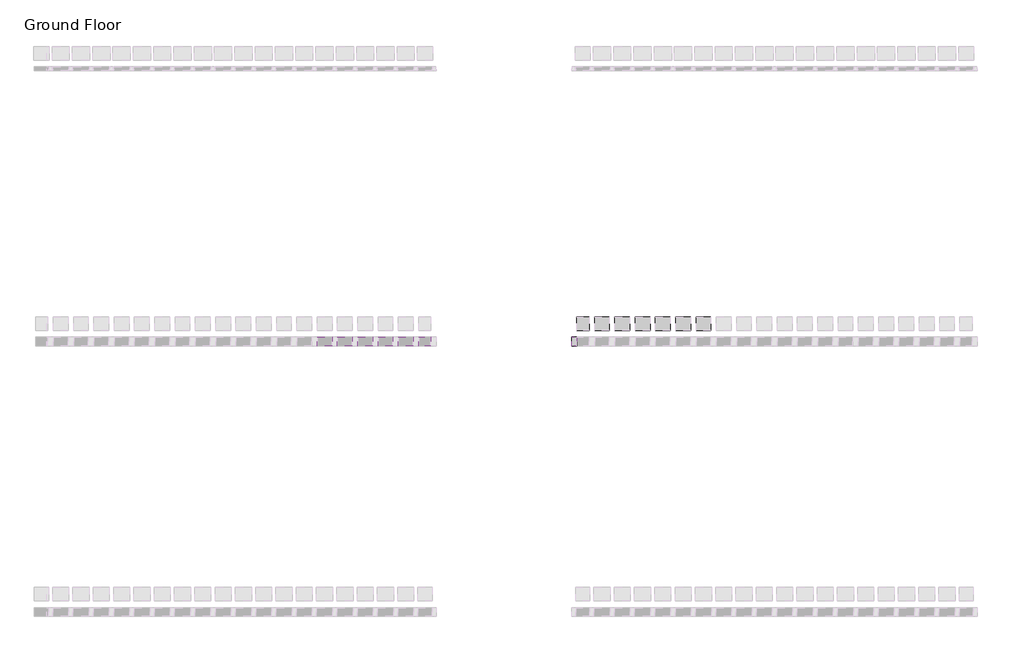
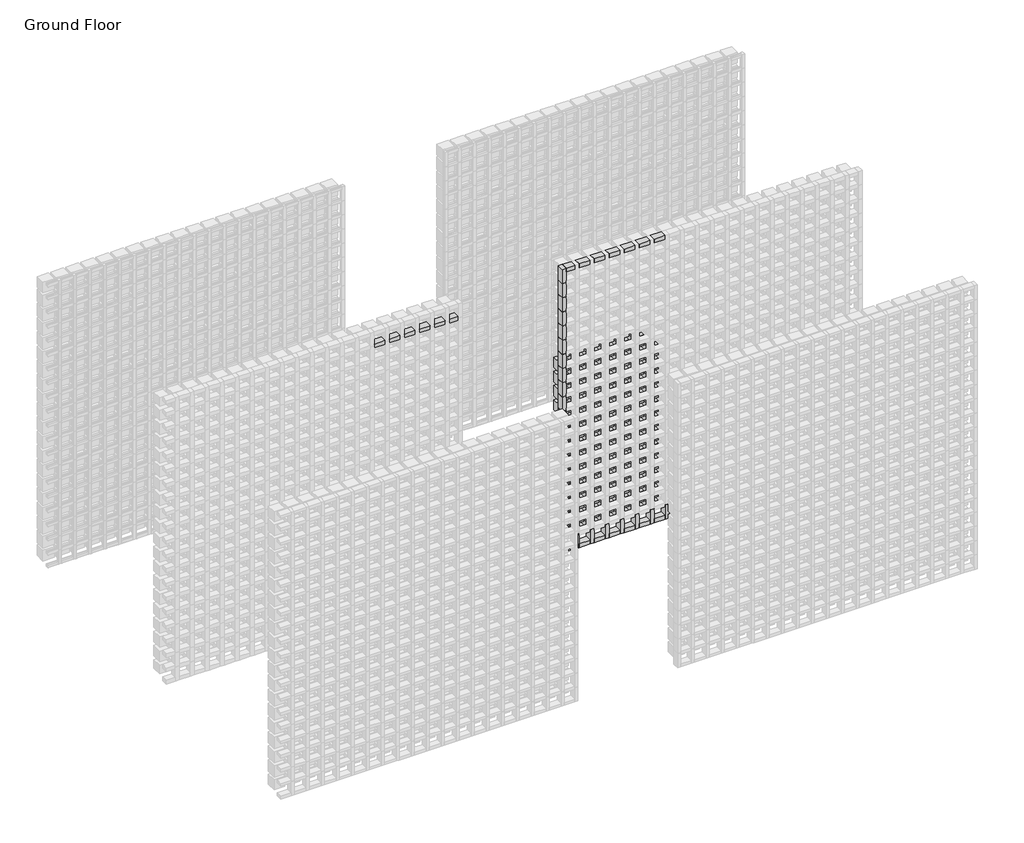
# One storey, part 94 of 350: 90 plates, 48 members.
"""IFC4 building model written with IfcOpenShell, lengths in millimetres."""

from ifc_helpers import new_model, si_unit, origin, place, context, project, spatial, transform, mapped, element, save
from components import rectangular_mullion_0b6a8654, rectangular_mullion_97e353d0, rectangular_mullion_655930e9, rectangular_mullion_78309e0b, rectangular_mullion_581565bb, rectangular_mullion_141bfd94, rectangular_mullion_d5b82d3d, rectangular_mullion_948b1c1d, empty_system_panel_empty_3b500fad, empty_system_panel_empty_e4510abc, empty_system_panel_empty_1faefc6a, empty_system_panel_empty_7f4523f5

model = new_model("IFC4")

# Units and contexts
model_context = context("Model", 3, world=origin())
ifc_project = project(units=[si_unit("LENGTHUNIT", "METRE", prefix="MILLI")], contexts=[model_context])

# Site, building, storey
site = spatial("IfcSite", under=ifc_project)
building = spatial("IfcBuilding", under=site)
storey = spatial("IfcBuildingStorey", under=building, Name="Ground Floor", Elevation=0.0)

# Members
placement = place(None, origin())
rectangular_mullion_shape = rectangular_mullion_0b6a8654(model_context)
element("IfcMember", 1, ObjectType="Rectangular Mullion : Batten_Timber_Modinex_Austratus_Grid_Fascia_40x65_AlaskanYellowCedar", at=placement, inside=storey, context=model_context, shape_type="MappedRepresentation", body=[
    mapped(rectangular_mullion_shape, transform((4876.4361639, 40968.2978302, 2850.0), x_axis=(0.0, 0.0, 1.0), y_axis=(0.0, -1.0, 0.0), z_axis=(1.0, 0.0, 0.0))),
])
rectangular_mullion_2_shape = rectangular_mullion_97e353d0(model_context)
element("IfcMember", 2, ObjectType="Rectangular Mullion : Batten_Timber_Modinex_Austratus_Grid_Fascia_40x65_AlaskanYellowCedar", at=placement, inside=storey, context=model_context, shape_type="MappedRepresentation", body=[
    mapped(rectangular_mullion_2_shape, transform((4146.4361642, 40968.2978302, 2850.0), x_axis=(0.0, 0.0, 1.0), y_axis=(0.0, -1.0, 0.0), z_axis=(1.0, 0.0, 0.0))),
])
element("IfcMember", 3, ObjectType="Rectangular Mullion : Batten_Timber_Modinex_Austratus_Grid_Fascia_40x65_AlaskanYellowCedar", at=placement, inside=storey, context=model_context, shape_type="MappedRepresentation", body=[
    mapped(rectangular_mullion_2_shape, transform((4296.4361642, 40968.2978302, 2850.0), x_axis=(0.0, 0.0, 1.0), y_axis=(0.0, -1.0, 0.0), z_axis=(1.0, 0.0, 0.0))),
])
element("IfcMember", 4, ObjectType="Rectangular Mullion : Batten_Timber_Modinex_Austratus_Grid_Fascia_40x65_AlaskanYellowCedar", at=placement, inside=storey, context=model_context, shape_type="MappedRepresentation", body=[
    mapped(rectangular_mullion_2_shape, transform((4446.4361642, 40968.2978302, 2850.0), x_axis=(0.0, 0.0, 1.0), y_axis=(0.0, -1.0, 0.0), z_axis=(1.0, 0.0, 0.0))),
])
element("IfcMember", 5, ObjectType="Rectangular Mullion : Batten_Timber_Modinex_Austratus_Grid_Fascia_40x65_AlaskanYellowCedar", at=placement, inside=storey, context=model_context, shape_type="MappedRepresentation", body=[
    mapped(rectangular_mullion_2_shape, transform((4596.4361642, 40968.2978302, 2850.0), x_axis=(0.0, 0.0, 1.0), y_axis=(0.0, -1.0, 0.0), z_axis=(1.0, 0.0, 0.0))),
])
element("IfcMember", 6, ObjectType="Rectangular Mullion : Batten_Timber_Modinex_Austratus_Grid_Fascia_40x65_AlaskanYellowCedar", at=placement, inside=storey, context=model_context, shape_type="MappedRepresentation", body=[
    mapped(rectangular_mullion_2_shape, transform((4746.4361642, 40968.2978302, 2850.0), x_axis=(0.0, 0.0, 1.0), y_axis=(0.0, -1.0, 0.0), z_axis=(1.0, 0.0, 0.0))),
])
rectangular_mullion_3_shape = rectangular_mullion_655930e9(model_context)
element("IfcMember", 7, ObjectType="Rectangular Mullion : Batten_Timber_Modinex_Austratus_Grid_Fascia_40x65_Blackbutt", at=placement, inside=storey, context=model_context, shape_type="MappedRepresentation", body=[
    mapped(rectangular_mullion_3_shape, transform((6066.4361642, 40968.2978302, 0.0), x_axis=(1.0, 0.0, 0.0), y_axis=(0.0, -1.0, 0.0), z_axis=(0.0, 0.0, -1.0))),
])
element("IfcMember", 8, ObjectType="Rectangular Mullion : Batten_Timber_Modinex_Austratus_Grid_Fascia_40x65_Blackbutt", at=placement, inside=storey, context=model_context, shape_type="MappedRepresentation", body=[
    mapped(rectangular_mullion_3_shape, transform((6216.4361642, 40968.2978302, 0.0), x_axis=(1.0, 0.0, 0.0), y_axis=(0.0, -1.0, 0.0), z_axis=(0.0, 0.0, -1.0))),
])
element("IfcMember", 9, ObjectType="Rectangular Mullion : Batten_Timber_Modinex_Austratus_Grid_Fascia_40x65_Blackbutt", at=placement, inside=storey, context=model_context, shape_type="MappedRepresentation", body=[
    mapped(rectangular_mullion_3_shape, transform((6366.4361642, 40968.2978302, 0.0), x_axis=(1.0, 0.0, 0.0), y_axis=(0.0, -1.0, 0.0), z_axis=(0.0, 0.0, -1.0))),
])
element("IfcMember", 10, ObjectType="Rectangular Mullion : Batten_Timber_Modinex_Austratus_Grid_Fascia_40x65_Blackbutt", at=placement, inside=storey, context=model_context, shape_type="MappedRepresentation", body=[
    mapped(rectangular_mullion_3_shape, transform((6516.4361642, 40968.2978302, 0.0), x_axis=(1.0, 0.0, 0.0), y_axis=(0.0, -1.0, 0.0), z_axis=(0.0, 0.0, -1.0))),
])
element("IfcMember", 11, ObjectType="Rectangular Mullion : Batten_Timber_Modinex_Austratus_Grid_Fascia_40x65_Blackbutt", at=placement, inside=storey, context=model_context, shape_type="MappedRepresentation", body=[
    mapped(rectangular_mullion_3_shape, transform((6666.4361642, 40968.2978302, 0.0), x_axis=(1.0, 0.0, 0.0), y_axis=(0.0, -1.0, 0.0), z_axis=(0.0, 0.0, -1.0))),
])
element("IfcMember", 12, ObjectType="Rectangular Mullion : Batten_Timber_Modinex_Austratus_Grid_Fascia_40x65_Blackbutt", at=placement, inside=storey, context=model_context, shape_type="MappedRepresentation", body=[
    mapped(rectangular_mullion_3_shape, transform((6816.4361642, 40968.2978302, 0.0), x_axis=(1.0, 0.0, 0.0), y_axis=(0.0, -1.0, 0.0), z_axis=(0.0, 0.0, -1.0))),
])
element("IfcMember", 13, ObjectType="Rectangular Mullion : Batten_Timber_Modinex_Austratus_Grid_Fascia_40x65_Blackbutt", at=placement, inside=storey, context=model_context, shape_type="MappedRepresentation", body=[
    mapped(rectangular_mullion_3_shape, transform((6966.4361642, 40968.2978302, 0.0), x_axis=(1.0, 0.0, 0.0), y_axis=(0.0, -1.0, 0.0), z_axis=(0.0, 0.0, -1.0))),
])
rectangular_mullion_4_shape = rectangular_mullion_78309e0b(model_context)
element("IfcMember", 14, ObjectType="Rectangular Mullion : Batten_Timber_Modinex_Austratus_Grid_Fascia_40x65_Blackbutt", at=placement, inside=storey, context=model_context, shape_type="MappedRepresentation", body=[
    mapped(rectangular_mullion_4_shape, transform((6046.4361642, 40968.2978302, 3000.0), x_axis=(0.0, 0.0, 1.0), y_axis=(0.0, -1.0, 0.0), z_axis=(1.0, 0.0, 0.0))),
])
rectangular_mullion_5_shape = rectangular_mullion_581565bb(model_context)
element("IfcMember", 15, ObjectType="Rectangular Mullion : Batten_Timber_Modinex_Austratus_Grid_Fascia_40x65_Blackbutt", at=placement, inside=storey, context=model_context, shape_type="MappedRepresentation", body=[
    mapped(rectangular_mullion_5_shape, transform((6196.4361642, 40968.2978302, 3000.0), x_axis=(0.0, 0.0, 1.0), y_axis=(0.0, -1.0, 0.0), z_axis=(1.0, 0.0, 0.0))),
])
element("IfcMember", 16, ObjectType="Rectangular Mullion : Batten_Timber_Modinex_Austratus_Grid_Fascia_40x65_Blackbutt", at=placement, inside=storey, context=model_context, shape_type="MappedRepresentation", body=[
    mapped(rectangular_mullion_5_shape, transform((6346.4361642, 40968.2978302, 3000.0), x_axis=(0.0, 0.0, 1.0), y_axis=(0.0, -1.0, 0.0), z_axis=(1.0, 0.0, 0.0))),
])
element("IfcMember", 17, ObjectType="Rectangular Mullion : Batten_Timber_Modinex_Austratus_Grid_Fascia_40x65_Blackbutt", at=placement, inside=storey, context=model_context, shape_type="MappedRepresentation", body=[
    mapped(rectangular_mullion_5_shape, transform((6496.4361642, 40968.2978302, 3000.0), x_axis=(0.0, 0.0, 1.0), y_axis=(0.0, -1.0, 0.0), z_axis=(1.0, 0.0, 0.0))),
])
element("IfcMember", 18, ObjectType="Rectangular Mullion : Batten_Timber_Modinex_Austratus_Grid_Fascia_40x65_Blackbutt", at=placement, inside=storey, context=model_context, shape_type="MappedRepresentation", body=[
    mapped(rectangular_mullion_5_shape, transform((6646.4361642, 40968.2978302, 3000.0), x_axis=(0.0, 0.0, 1.0), y_axis=(0.0, -1.0, 0.0), z_axis=(1.0, 0.0, 0.0))),
])
element("IfcMember", 19, ObjectType="Rectangular Mullion : Batten_Timber_Modinex_Austratus_Grid_Fascia_40x65_Blackbutt", at=placement, inside=storey, context=model_context, shape_type="MappedRepresentation", body=[
    mapped(rectangular_mullion_5_shape, transform((6796.4361642, 40968.2978302, 3000.0), x_axis=(0.0, 0.0, 1.0), y_axis=(0.0, -1.0, 0.0), z_axis=(1.0, 0.0, 0.0))),
])
element("IfcMember", 20, ObjectType="Rectangular Mullion : Batten_Timber_Modinex_Austratus_Grid_Fascia_40x65_Blackbutt", at=placement, inside=storey, context=model_context, shape_type="MappedRepresentation", body=[
    mapped(rectangular_mullion_5_shape, transform((6946.4361642, 40968.2978302, 3000.0), x_axis=(0.0, 0.0, 1.0), y_axis=(0.0, -1.0, 0.0), z_axis=(1.0, 0.0, 0.0))),
])
rectangular_mullion_6_shape = rectangular_mullion_141bfd94(model_context)
element("IfcMember", 21, ObjectType="Rectangular Mullion : Batten_Timber_Modinex_Austratus_Grid_Fascia_40x65_Blackbutt", at=placement, inside=storey, context=model_context, shape_type="MappedRepresentation", body=[
    mapped(rectangular_mullion_6_shape, transform((5956.4361639, 40968.2978302, 0.0), x_axis=(0.0, 0.0, -1.0), y_axis=(0.0, -1.0, 0.0), z_axis=(-1.0, 0.0, 0.0))),
])
rectangular_mullion_7_shape = rectangular_mullion_d5b82d3d(model_context)
element("IfcMember", 22, ObjectType="Rectangular Mullion : Batten_Timber_Modinex_Austratus_Grid_Fascia_40x65_Blackbutt", at=placement, inside=storey, context=model_context, shape_type="MappedRepresentation", body=[
    mapped(rectangular_mullion_7_shape, transform((6086.4361642, 40968.2978302, 0.0), x_axis=(0.0, 0.0, -1.0), y_axis=(0.0, -1.0, 0.0), z_axis=(-1.0, 0.0, 0.0))),
])
element("IfcMember", 23, ObjectType="Rectangular Mullion : Batten_Timber_Modinex_Austratus_Grid_Fascia_40x65_Blackbutt", at=placement, inside=storey, context=model_context, shape_type="MappedRepresentation", body=[
    mapped(rectangular_mullion_7_shape, transform((6236.4361642, 40968.2978302, 0.0), x_axis=(0.0, 0.0, -1.0), y_axis=(0.0, -1.0, 0.0), z_axis=(-1.0, 0.0, 0.0))),
])
element("IfcMember", 24, ObjectType="Rectangular Mullion : Batten_Timber_Modinex_Austratus_Grid_Fascia_40x65_Blackbutt", at=placement, inside=storey, context=model_context, shape_type="MappedRepresentation", body=[
    mapped(rectangular_mullion_7_shape, transform((6386.4361642, 40968.2978302, 0.0), x_axis=(0.0, 0.0, -1.0), y_axis=(0.0, -1.0, 0.0), z_axis=(-1.0, 0.0, 0.0))),
])
element("IfcMember", 25, ObjectType="Rectangular Mullion : Batten_Timber_Modinex_Austratus_Grid_Fascia_40x65_Blackbutt", at=placement, inside=storey, context=model_context, shape_type="MappedRepresentation", body=[
    mapped(rectangular_mullion_7_shape, transform((6536.4361642, 40968.2978302, 0.0), x_axis=(0.0, 0.0, -1.0), y_axis=(0.0, -1.0, 0.0), z_axis=(-1.0, 0.0, 0.0))),
])
element("IfcMember", 26, ObjectType="Rectangular Mullion : Batten_Timber_Modinex_Austratus_Grid_Fascia_40x65_Blackbutt", at=placement, inside=storey, context=model_context, shape_type="MappedRepresentation", body=[
    mapped(rectangular_mullion_7_shape, transform((6686.4361642, 40968.2978302, 0.0), x_axis=(0.0, 0.0, -1.0), y_axis=(0.0, -1.0, 0.0), z_axis=(-1.0, 0.0, 0.0))),
])
element("IfcMember", 27, ObjectType="Rectangular Mullion : Batten_Timber_Modinex_Austratus_Grid_Fascia_40x65_Blackbutt", at=placement, inside=storey, context=model_context, shape_type="MappedRepresentation", body=[
    mapped(rectangular_mullion_7_shape, transform((6836.4361642, 40968.2978302, 0.0), x_axis=(0.0, 0.0, -1.0), y_axis=(0.0, -1.0, 0.0), z_axis=(-1.0, 0.0, 0.0))),
])
element("IfcMember", 28, ObjectType="Rectangular Mullion : Batten_Timber_Modinex_Austratus_Grid_Fascia_40x65_Blackbutt", at=placement, inside=storey, context=model_context, shape_type="MappedRepresentation", body=[
    mapped(rectangular_mullion_7_shape, transform((6986.4361642, 40968.2978302, 0.0), x_axis=(0.0, 0.0, -1.0), y_axis=(0.0, -1.0, 0.0), z_axis=(-1.0, 0.0, 0.0))),
])
rectangular_mullion_8_shape = rectangular_mullion_948b1c1d(model_context)
element("IfcMember", 29, ObjectType="Rectangular Mullion : Batten_Timber_Modinex_Austratus_Grid_Fascia_40x65_Blackbutt", at=placement, inside=storey, context=model_context, shape_type="MappedRepresentation", body=[
    mapped(rectangular_mullion_8_shape, transform((5916.4361639, 40968.2978302, 3000.0), x_axis=(-1.0, 0.0, 0.0), y_axis=(0.0, -1.0, 0.0), z_axis=(0.0, 0.0, 1.0))),
])
element("IfcMember", 30, ObjectType="Rectangular Mullion : Batten_Timber_Modinex_Austratus_Grid_Fascia_40x65_Blackbutt", at=placement, inside=storey, context=model_context, shape_type="MappedRepresentation", body=[
    mapped(rectangular_mullion_8_shape, transform((5916.4361639, 40968.2978302, 150.0), x_axis=(-1.0, 0.0, 0.0), y_axis=(0.0, -1.0, 0.0), z_axis=(0.0, 0.0, 1.0))),
])
element("IfcMember", 31, ObjectType="Rectangular Mullion : Batten_Timber_Modinex_Austratus_Grid_Fascia_40x65_Blackbutt", at=placement, inside=storey, context=model_context, shape_type="MappedRepresentation", body=[
    mapped(rectangular_mullion_8_shape, transform((5916.4361639, 40968.2978302, 300.0), x_axis=(-1.0, 0.0, 0.0), y_axis=(0.0, -1.0, 0.0), z_axis=(0.0, 0.0, 1.0))),
])
element("IfcMember", 32, ObjectType="Rectangular Mullion : Batten_Timber_Modinex_Austratus_Grid_Fascia_40x65_Blackbutt", at=placement, inside=storey, context=model_context, shape_type="MappedRepresentation", body=[
    mapped(rectangular_mullion_8_shape, transform((5916.4361639, 40968.2978302, 450.0), x_axis=(-1.0, 0.0, 0.0), y_axis=(0.0, -1.0, 0.0), z_axis=(0.0, 0.0, 1.0))),
])
element("IfcMember", 33, ObjectType="Rectangular Mullion : Batten_Timber_Modinex_Austratus_Grid_Fascia_40x65_Blackbutt", at=placement, inside=storey, context=model_context, shape_type="MappedRepresentation", body=[
    mapped(rectangular_mullion_8_shape, transform((5916.4361639, 40968.2978302, 600.0), x_axis=(-1.0, 0.0, 0.0), y_axis=(0.0, -1.0, 0.0), z_axis=(0.0, 0.0, 1.0))),
])
element("IfcMember", 34, ObjectType="Rectangular Mullion : Batten_Timber_Modinex_Austratus_Grid_Fascia_40x65_Blackbutt", at=placement, inside=storey, context=model_context, shape_type="MappedRepresentation", body=[
    mapped(rectangular_mullion_8_shape, transform((5916.4361639, 40968.2978302, 750.0), x_axis=(-1.0, 0.0, 0.0), y_axis=(0.0, -1.0, 0.0), z_axis=(0.0, 0.0, 1.0))),
])
element("IfcMember", 35, ObjectType="Rectangular Mullion : Batten_Timber_Modinex_Austratus_Grid_Fascia_40x65_Blackbutt", at=placement, inside=storey, context=model_context, shape_type="MappedRepresentation", body=[
    mapped(rectangular_mullion_8_shape, transform((5916.4361639, 40968.2978302, 900.0), x_axis=(-1.0, 0.0, 0.0), y_axis=(0.0, -1.0, 0.0), z_axis=(0.0, 0.0, 1.0))),
])
element("IfcMember", 36, ObjectType="Rectangular Mullion : Batten_Timber_Modinex_Austratus_Grid_Fascia_40x65_Blackbutt", at=placement, inside=storey, context=model_context, shape_type="MappedRepresentation", body=[
    mapped(rectangular_mullion_8_shape, transform((5916.4361639, 40968.2978302, 1050.0), x_axis=(-1.0, 0.0, 0.0), y_axis=(0.0, -1.0, 0.0), z_axis=(0.0, 0.0, 1.0))),
])
element("IfcMember", 37, ObjectType="Rectangular Mullion : Batten_Timber_Modinex_Austratus_Grid_Fascia_40x65_Blackbutt", at=placement, inside=storey, context=model_context, shape_type="MappedRepresentation", body=[
    mapped(rectangular_mullion_8_shape, transform((5916.4361639, 40968.2978302, 1200.0), x_axis=(-1.0, 0.0, 0.0), y_axis=(0.0, -1.0, 0.0), z_axis=(0.0, 0.0, 1.0))),
])
element("IfcMember", 38, ObjectType="Rectangular Mullion : Batten_Timber_Modinex_Austratus_Grid_Fascia_40x65_Blackbutt", at=placement, inside=storey, context=model_context, shape_type="MappedRepresentation", body=[
    mapped(rectangular_mullion_8_shape, transform((5916.4361639, 40968.2978302, 1350.0), x_axis=(-1.0, 0.0, 0.0), y_axis=(0.0, -1.0, 0.0), z_axis=(0.0, 0.0, 1.0))),
])
element("IfcMember", 39, ObjectType="Rectangular Mullion : Batten_Timber_Modinex_Austratus_Grid_Fascia_40x65_Blackbutt", at=placement, inside=storey, context=model_context, shape_type="MappedRepresentation", body=[
    mapped(rectangular_mullion_8_shape, transform((5916.4361639, 40968.2978302, 1500.0), x_axis=(-1.0, 0.0, 0.0), y_axis=(0.0, -1.0, 0.0), z_axis=(0.0, 0.0, 1.0))),
])
element("IfcMember", 40, ObjectType="Rectangular Mullion : Batten_Timber_Modinex_Austratus_Grid_Fascia_40x65_Blackbutt", at=placement, inside=storey, context=model_context, shape_type="MappedRepresentation", body=[
    mapped(rectangular_mullion_8_shape, transform((5916.4361639, 40968.2978302, 1650.0), x_axis=(-1.0, 0.0, 0.0), y_axis=(0.0, -1.0, 0.0), z_axis=(0.0, 0.0, 1.0))),
])
element("IfcMember", 41, ObjectType="Rectangular Mullion : Batten_Timber_Modinex_Austratus_Grid_Fascia_40x65_Blackbutt", at=placement, inside=storey, context=model_context, shape_type="MappedRepresentation", body=[
    mapped(rectangular_mullion_8_shape, transform((5916.4361639, 40968.2978302, 1800.0), x_axis=(-1.0, 0.0, 0.0), y_axis=(0.0, -1.0, 0.0), z_axis=(0.0, 0.0, 1.0))),
])
element("IfcMember", 42, ObjectType="Rectangular Mullion : Batten_Timber_Modinex_Austratus_Grid_Fascia_40x65_Blackbutt", at=placement, inside=storey, context=model_context, shape_type="MappedRepresentation", body=[
    mapped(rectangular_mullion_8_shape, transform((5916.4361639, 40968.2978302, 1950.0), x_axis=(-1.0, 0.0, 0.0), y_axis=(0.0, -1.0, 0.0), z_axis=(0.0, 0.0, 1.0))),
])
element("IfcMember", 43, ObjectType="Rectangular Mullion : Batten_Timber_Modinex_Austratus_Grid_Fascia_40x65_Blackbutt", at=placement, inside=storey, context=model_context, shape_type="MappedRepresentation", body=[
    mapped(rectangular_mullion_8_shape, transform((5916.4361639, 40968.2978302, 2100.0), x_axis=(-1.0, 0.0, 0.0), y_axis=(0.0, -1.0, 0.0), z_axis=(0.0, 0.0, 1.0))),
])
element("IfcMember", 44, ObjectType="Rectangular Mullion : Batten_Timber_Modinex_Austratus_Grid_Fascia_40x65_Blackbutt", at=placement, inside=storey, context=model_context, shape_type="MappedRepresentation", body=[
    mapped(rectangular_mullion_8_shape, transform((5916.4361639, 40968.2978302, 2250.0), x_axis=(-1.0, 0.0, 0.0), y_axis=(0.0, -1.0, 0.0), z_axis=(0.0, 0.0, 1.0))),
])
element("IfcMember", 45, ObjectType="Rectangular Mullion : Batten_Timber_Modinex_Austratus_Grid_Fascia_40x65_Blackbutt", at=placement, inside=storey, context=model_context, shape_type="MappedRepresentation", body=[
    mapped(rectangular_mullion_8_shape, transform((5916.4361639, 40968.2978302, 2400.0), x_axis=(-1.0, 0.0, 0.0), y_axis=(0.0, -1.0, 0.0), z_axis=(0.0, 0.0, 1.0))),
])
element("IfcMember", 46, ObjectType="Rectangular Mullion : Batten_Timber_Modinex_Austratus_Grid_Fascia_40x65_Blackbutt", at=placement, inside=storey, context=model_context, shape_type="MappedRepresentation", body=[
    mapped(rectangular_mullion_8_shape, transform((5916.4361639, 40968.2978302, 2550.0), x_axis=(-1.0, 0.0, 0.0), y_axis=(0.0, -1.0, 0.0), z_axis=(0.0, 0.0, 1.0))),
])
element("IfcMember", 47, ObjectType="Rectangular Mullion : Batten_Timber_Modinex_Austratus_Grid_Fascia_40x65_Blackbutt", at=placement, inside=storey, context=model_context, shape_type="MappedRepresentation", body=[
    mapped(rectangular_mullion_8_shape, transform((5916.4361639, 40968.2978302, 2700.0), x_axis=(-1.0, 0.0, 0.0), y_axis=(0.0, -1.0, 0.0), z_axis=(0.0, 0.0, 1.0))),
])
element("IfcMember", 48, ObjectType="Rectangular Mullion : Batten_Timber_Modinex_Austratus_Grid_Fascia_40x65_Blackbutt", at=placement, inside=storey, context=model_context, shape_type="MappedRepresentation", body=[
    mapped(rectangular_mullion_8_shape, transform((5916.4361639, 40968.2978302, 2850.0), x_axis=(-1.0, 0.0, 0.0), y_axis=(0.0, -1.0, 0.0), z_axis=(0.0, 0.0, 1.0))),
])

# Plates
empty_system_panel_empty_shape = empty_system_panel_empty_3b500fad(model_context)
element("IfcPlate", 49, ObjectType="Empty System Panel : Empty", at=placement, inside=storey, context=model_context, shape_type="MappedRepresentation", body=[
    mapped(empty_system_panel_empty_shape, transform((6141.4361642, 40968.2978302, 170.0), x_axis=(1.0, 0.0, 0.0), y_axis=(0.0, 1.0, 0.0), z_axis=(0.0, 0.0, 1.0))),
])
element("IfcPlate", 50, ObjectType="Empty System Panel : Empty", at=placement, inside=storey, context=model_context, shape_type="MappedRepresentation", body=[
    mapped(empty_system_panel_empty_shape, transform((6291.4361642, 40968.2978302, 170.0), x_axis=(1.0, 0.0, 0.0), y_axis=(0.0, 1.0, 0.0), z_axis=(0.0, 0.0, 1.0))),
])
element("IfcPlate", 51, ObjectType="Empty System Panel : Empty", at=placement, inside=storey, context=model_context, shape_type="MappedRepresentation", body=[
    mapped(empty_system_panel_empty_shape, transform((6441.4361642, 40968.2978302, 170.0), x_axis=(1.0, 0.0, 0.0), y_axis=(0.0, 1.0, 0.0), z_axis=(0.0, 0.0, 1.0))),
])
element("IfcPlate", 52, ObjectType="Empty System Panel : Empty", at=placement, inside=storey, context=model_context, shape_type="MappedRepresentation", body=[
    mapped(empty_system_panel_empty_shape, transform((6591.4361642, 40968.2978302, 170.0), x_axis=(1.0, 0.0, 0.0), y_axis=(0.0, 1.0, 0.0), z_axis=(0.0, 0.0, 1.0))),
])
element("IfcPlate", 53, ObjectType="Empty System Panel : Empty", at=placement, inside=storey, context=model_context, shape_type="MappedRepresentation", body=[
    mapped(empty_system_panel_empty_shape, transform((6741.4361642, 40968.2978302, 170.0), x_axis=(1.0, 0.0, 0.0), y_axis=(0.0, 1.0, 0.0), z_axis=(0.0, 0.0, 1.0))),
])
element("IfcPlate", 54, ObjectType="Empty System Panel : Empty", at=placement, inside=storey, context=model_context, shape_type="MappedRepresentation", body=[
    mapped(empty_system_panel_empty_shape, transform((6891.4361642, 40968.2978302, 170.0), x_axis=(1.0, 0.0, 0.0), y_axis=(0.0, 1.0, 0.0), z_axis=(0.0, 0.0, 1.0))),
])
element("IfcPlate", 55, ObjectType="Empty System Panel : Empty", at=placement, inside=storey, context=model_context, shape_type="MappedRepresentation", body=[
    mapped(empty_system_panel_empty_shape, transform((6141.4361642, 40968.2978302, 320.0), x_axis=(1.0, 0.0, 0.0), y_axis=(0.0, 1.0, 0.0), z_axis=(0.0, 0.0, 1.0))),
])
element("IfcPlate", 56, ObjectType="Empty System Panel : Empty", at=placement, inside=storey, context=model_context, shape_type="MappedRepresentation", body=[
    mapped(empty_system_panel_empty_shape, transform((6291.4361642, 40968.2978302, 320.0), x_axis=(1.0, 0.0, 0.0), y_axis=(0.0, 1.0, 0.0), z_axis=(0.0, 0.0, 1.0))),
])
element("IfcPlate", 57, ObjectType="Empty System Panel : Empty", at=placement, inside=storey, context=model_context, shape_type="MappedRepresentation", body=[
    mapped(empty_system_panel_empty_shape, transform((6441.4361642, 40968.2978302, 320.0), x_axis=(1.0, 0.0, 0.0), y_axis=(0.0, 1.0, 0.0), z_axis=(0.0, 0.0, 1.0))),
])
element("IfcPlate", 58, ObjectType="Empty System Panel : Empty", at=placement, inside=storey, context=model_context, shape_type="MappedRepresentation", body=[
    mapped(empty_system_panel_empty_shape, transform((6591.4361642, 40968.2978302, 320.0), x_axis=(1.0, 0.0, 0.0), y_axis=(0.0, 1.0, 0.0), z_axis=(0.0, 0.0, 1.0))),
])
element("IfcPlate", 59, ObjectType="Empty System Panel : Empty", at=placement, inside=storey, context=model_context, shape_type="MappedRepresentation", body=[
    mapped(empty_system_panel_empty_shape, transform((6741.4361642, 40968.2978302, 320.0), x_axis=(1.0, 0.0, 0.0), y_axis=(0.0, 1.0, 0.0), z_axis=(0.0, 0.0, 1.0))),
])
element("IfcPlate", 60, ObjectType="Empty System Panel : Empty", at=placement, inside=storey, context=model_context, shape_type="MappedRepresentation", body=[
    mapped(empty_system_panel_empty_shape, transform((6891.4361642, 40968.2978302, 320.0), x_axis=(1.0, 0.0, 0.0), y_axis=(0.0, 1.0, 0.0), z_axis=(0.0, 0.0, 1.0))),
])
element("IfcPlate", 61, ObjectType="Empty System Panel : Empty", at=placement, inside=storey, context=model_context, shape_type="MappedRepresentation", body=[
    mapped(empty_system_panel_empty_shape, transform((6141.4361642, 40968.2978302, 470.0), x_axis=(1.0, 0.0, 0.0), y_axis=(0.0, 1.0, 0.0), z_axis=(0.0, 0.0, 1.0))),
])
element("IfcPlate", 62, ObjectType="Empty System Panel : Empty", at=placement, inside=storey, context=model_context, shape_type="MappedRepresentation", body=[
    mapped(empty_system_panel_empty_shape, transform((6291.4361642, 40968.2978302, 470.0), x_axis=(1.0, 0.0, 0.0), y_axis=(0.0, 1.0, 0.0), z_axis=(0.0, 0.0, 1.0))),
])
element("IfcPlate", 63, ObjectType="Empty System Panel : Empty", at=placement, inside=storey, context=model_context, shape_type="MappedRepresentation", body=[
    mapped(empty_system_panel_empty_shape, transform((6441.4361642, 40968.2978302, 470.0), x_axis=(1.0, 0.0, 0.0), y_axis=(0.0, 1.0, 0.0), z_axis=(0.0, 0.0, 1.0))),
])
element("IfcPlate", 64, ObjectType="Empty System Panel : Empty", at=placement, inside=storey, context=model_context, shape_type="MappedRepresentation", body=[
    mapped(empty_system_panel_empty_shape, transform((6591.4361642, 40968.2978302, 470.0), x_axis=(1.0, 0.0, 0.0), y_axis=(0.0, 1.0, 0.0), z_axis=(0.0, 0.0, 1.0))),
])
element("IfcPlate", 65, ObjectType="Empty System Panel : Empty", at=placement, inside=storey, context=model_context, shape_type="MappedRepresentation", body=[
    mapped(empty_system_panel_empty_shape, transform((6741.4361642, 40968.2978302, 470.0), x_axis=(1.0, 0.0, 0.0), y_axis=(0.0, 1.0, 0.0), z_axis=(0.0, 0.0, 1.0))),
])
element("IfcPlate", 66, ObjectType="Empty System Panel : Empty", at=placement, inside=storey, context=model_context, shape_type="MappedRepresentation", body=[
    mapped(empty_system_panel_empty_shape, transform((6891.4361642, 40968.2978302, 470.0), x_axis=(1.0, 0.0, 0.0), y_axis=(0.0, 1.0, 0.0), z_axis=(0.0, 0.0, 1.0))),
])
element("IfcPlate", 67, ObjectType="Empty System Panel : Empty", at=placement, inside=storey, context=model_context, shape_type="MappedRepresentation", body=[
    mapped(empty_system_panel_empty_shape, transform((6141.4361642, 40968.2978302, 620.0), x_axis=(1.0, 0.0, 0.0), y_axis=(0.0, 1.0, 0.0), z_axis=(0.0, 0.0, 1.0))),
])
element("IfcPlate", 68, ObjectType="Empty System Panel : Empty", at=placement, inside=storey, context=model_context, shape_type="MappedRepresentation", body=[
    mapped(empty_system_panel_empty_shape, transform((6291.4361642, 40968.2978302, 620.0), x_axis=(1.0, 0.0, 0.0), y_axis=(0.0, 1.0, 0.0), z_axis=(0.0, 0.0, 1.0))),
])
element("IfcPlate", 69, ObjectType="Empty System Panel : Empty", at=placement, inside=storey, context=model_context, shape_type="MappedRepresentation", body=[
    mapped(empty_system_panel_empty_shape, transform((6441.4361642, 40968.2978302, 620.0), x_axis=(1.0, 0.0, 0.0), y_axis=(0.0, 1.0, 0.0), z_axis=(0.0, 0.0, 1.0))),
])
element("IfcPlate", 70, ObjectType="Empty System Panel : Empty", at=placement, inside=storey, context=model_context, shape_type="MappedRepresentation", body=[
    mapped(empty_system_panel_empty_shape, transform((6591.4361642, 40968.2978302, 620.0), x_axis=(1.0, 0.0, 0.0), y_axis=(0.0, 1.0, 0.0), z_axis=(0.0, 0.0, 1.0))),
])
element("IfcPlate", 71, ObjectType="Empty System Panel : Empty", at=placement, inside=storey, context=model_context, shape_type="MappedRepresentation", body=[
    mapped(empty_system_panel_empty_shape, transform((6741.4361642, 40968.2978302, 620.0), x_axis=(1.0, 0.0, 0.0), y_axis=(0.0, 1.0, 0.0), z_axis=(0.0, 0.0, 1.0))),
])
element("IfcPlate", 72, ObjectType="Empty System Panel : Empty", at=placement, inside=storey, context=model_context, shape_type="MappedRepresentation", body=[
    mapped(empty_system_panel_empty_shape, transform((6891.4361642, 40968.2978302, 620.0), x_axis=(1.0, 0.0, 0.0), y_axis=(0.0, 1.0, 0.0), z_axis=(0.0, 0.0, 1.0))),
])
element("IfcPlate", 73, ObjectType="Empty System Panel : Empty", at=placement, inside=storey, context=model_context, shape_type="MappedRepresentation", body=[
    mapped(empty_system_panel_empty_shape, transform((6141.4361642, 40968.2978302, 770.0), x_axis=(1.0, 0.0, 0.0), y_axis=(0.0, 1.0, 0.0), z_axis=(0.0, 0.0, 1.0))),
])
element("IfcPlate", 74, ObjectType="Empty System Panel : Empty", at=placement, inside=storey, context=model_context, shape_type="MappedRepresentation", body=[
    mapped(empty_system_panel_empty_shape, transform((6291.4361642, 40968.2978302, 770.0), x_axis=(1.0, 0.0, 0.0), y_axis=(0.0, 1.0, 0.0), z_axis=(0.0, 0.0, 1.0))),
])
element("IfcPlate", 75, ObjectType="Empty System Panel : Empty", at=placement, inside=storey, context=model_context, shape_type="MappedRepresentation", body=[
    mapped(empty_system_panel_empty_shape, transform((6441.4361642, 40968.2978302, 770.0), x_axis=(1.0, 0.0, 0.0), y_axis=(0.0, 1.0, 0.0), z_axis=(0.0, 0.0, 1.0))),
])
element("IfcPlate", 76, ObjectType="Empty System Panel : Empty", at=placement, inside=storey, context=model_context, shape_type="MappedRepresentation", body=[
    mapped(empty_system_panel_empty_shape, transform((6591.4361642, 40968.2978302, 770.0), x_axis=(1.0, 0.0, 0.0), y_axis=(0.0, 1.0, 0.0), z_axis=(0.0, 0.0, 1.0))),
])
element("IfcPlate", 77, ObjectType="Empty System Panel : Empty", at=placement, inside=storey, context=model_context, shape_type="MappedRepresentation", body=[
    mapped(empty_system_panel_empty_shape, transform((6741.4361642, 40968.2978302, 770.0), x_axis=(1.0, 0.0, 0.0), y_axis=(0.0, 1.0, 0.0), z_axis=(0.0, 0.0, 1.0))),
])
element("IfcPlate", 78, ObjectType="Empty System Panel : Empty", at=placement, inside=storey, context=model_context, shape_type="MappedRepresentation", body=[
    mapped(empty_system_panel_empty_shape, transform((6891.4361642, 40968.2978302, 770.0), x_axis=(1.0, 0.0, 0.0), y_axis=(0.0, 1.0, 0.0), z_axis=(0.0, 0.0, 1.0))),
])
element("IfcPlate", 79, ObjectType="Empty System Panel : Empty", at=placement, inside=storey, context=model_context, shape_type="MappedRepresentation", body=[
    mapped(empty_system_panel_empty_shape, transform((6141.4361642, 40968.2978302, 920.0), x_axis=(1.0, 0.0, 0.0), y_axis=(0.0, 1.0, 0.0), z_axis=(0.0, 0.0, 1.0))),
])
element("IfcPlate", 80, ObjectType="Empty System Panel : Empty", at=placement, inside=storey, context=model_context, shape_type="MappedRepresentation", body=[
    mapped(empty_system_panel_empty_shape, transform((6291.4361642, 40968.2978302, 920.0), x_axis=(1.0, 0.0, 0.0), y_axis=(0.0, 1.0, 0.0), z_axis=(0.0, 0.0, 1.0))),
])
element("IfcPlate", 81, ObjectType="Empty System Panel : Empty", at=placement, inside=storey, context=model_context, shape_type="MappedRepresentation", body=[
    mapped(empty_system_panel_empty_shape, transform((6441.4361642, 40968.2978302, 920.0), x_axis=(1.0, 0.0, 0.0), y_axis=(0.0, 1.0, 0.0), z_axis=(0.0, 0.0, 1.0))),
])
element("IfcPlate", 82, ObjectType="Empty System Panel : Empty", at=placement, inside=storey, context=model_context, shape_type="MappedRepresentation", body=[
    mapped(empty_system_panel_empty_shape, transform((6591.4361642, 40968.2978302, 920.0), x_axis=(1.0, 0.0, 0.0), y_axis=(0.0, 1.0, 0.0), z_axis=(0.0, 0.0, 1.0))),
])
element("IfcPlate", 83, ObjectType="Empty System Panel : Empty", at=placement, inside=storey, context=model_context, shape_type="MappedRepresentation", body=[
    mapped(empty_system_panel_empty_shape, transform((6741.4361642, 40968.2978302, 920.0), x_axis=(1.0, 0.0, 0.0), y_axis=(0.0, 1.0, 0.0), z_axis=(0.0, 0.0, 1.0))),
])
element("IfcPlate", 84, ObjectType="Empty System Panel : Empty", at=placement, inside=storey, context=model_context, shape_type="MappedRepresentation", body=[
    mapped(empty_system_panel_empty_shape, transform((6891.4361642, 40968.2978302, 920.0), x_axis=(1.0, 0.0, 0.0), y_axis=(0.0, 1.0, 0.0), z_axis=(0.0, 0.0, 1.0))),
])
element("IfcPlate", 85, ObjectType="Empty System Panel : Empty", at=placement, inside=storey, context=model_context, shape_type="MappedRepresentation", body=[
    mapped(empty_system_panel_empty_shape, transform((6141.4361642, 40968.2978302, 1070.0), x_axis=(1.0, 0.0, 0.0), y_axis=(0.0, 1.0, 0.0), z_axis=(0.0, 0.0, 1.0))),
])
element("IfcPlate", 86, ObjectType="Empty System Panel : Empty", at=placement, inside=storey, context=model_context, shape_type="MappedRepresentation", body=[
    mapped(empty_system_panel_empty_shape, transform((6291.4361642, 40968.2978302, 1070.0), x_axis=(1.0, 0.0, 0.0), y_axis=(0.0, 1.0, 0.0), z_axis=(0.0, 0.0, 1.0))),
])
element("IfcPlate", 87, ObjectType="Empty System Panel : Empty", at=placement, inside=storey, context=model_context, shape_type="MappedRepresentation", body=[
    mapped(empty_system_panel_empty_shape, transform((6441.4361642, 40968.2978302, 1070.0), x_axis=(1.0, 0.0, 0.0), y_axis=(0.0, 1.0, 0.0), z_axis=(0.0, 0.0, 1.0))),
])
element("IfcPlate", 88, ObjectType="Empty System Panel : Empty", at=placement, inside=storey, context=model_context, shape_type="MappedRepresentation", body=[
    mapped(empty_system_panel_empty_shape, transform((6591.4361642, 40968.2978302, 1070.0), x_axis=(1.0, 0.0, 0.0), y_axis=(0.0, 1.0, 0.0), z_axis=(0.0, 0.0, 1.0))),
])
element("IfcPlate", 89, ObjectType="Empty System Panel : Empty", at=placement, inside=storey, context=model_context, shape_type="MappedRepresentation", body=[
    mapped(empty_system_panel_empty_shape, transform((6741.4361642, 40968.2978302, 1070.0), x_axis=(1.0, 0.0, 0.0), y_axis=(0.0, 1.0, 0.0), z_axis=(0.0, 0.0, 1.0))),
])
element("IfcPlate", 90, ObjectType="Empty System Panel : Empty", at=placement, inside=storey, context=model_context, shape_type="MappedRepresentation", body=[
    mapped(empty_system_panel_empty_shape, transform((6891.4361642, 40968.2978302, 1070.0), x_axis=(1.0, 0.0, 0.0), y_axis=(0.0, 1.0, 0.0), z_axis=(0.0, 0.0, 1.0))),
])
element("IfcPlate", 91, ObjectType="Empty System Panel : Empty", at=placement, inside=storey, context=model_context, shape_type="MappedRepresentation", body=[
    mapped(empty_system_panel_empty_shape, transform((6141.4361642, 40968.2978302, 1220.0), x_axis=(1.0, 0.0, 0.0), y_axis=(0.0, 1.0, 0.0), z_axis=(0.0, 0.0, 1.0))),
])
element("IfcPlate", 92, ObjectType="Empty System Panel : Empty", at=placement, inside=storey, context=model_context, shape_type="MappedRepresentation", body=[
    mapped(empty_system_panel_empty_shape, transform((6291.4361642, 40968.2978302, 1220.0), x_axis=(1.0, 0.0, 0.0), y_axis=(0.0, 1.0, 0.0), z_axis=(0.0, 0.0, 1.0))),
])
element("IfcPlate", 93, ObjectType="Empty System Panel : Empty", at=placement, inside=storey, context=model_context, shape_type="MappedRepresentation", body=[
    mapped(empty_system_panel_empty_shape, transform((6441.4361642, 40968.2978302, 1220.0), x_axis=(1.0, 0.0, 0.0), y_axis=(0.0, 1.0, 0.0), z_axis=(0.0, 0.0, 1.0))),
])
element("IfcPlate", 94, ObjectType="Empty System Panel : Empty", at=placement, inside=storey, context=model_context, shape_type="MappedRepresentation", body=[
    mapped(empty_system_panel_empty_shape, transform((6591.4361642, 40968.2978302, 1220.0), x_axis=(1.0, 0.0, 0.0), y_axis=(0.0, 1.0, 0.0), z_axis=(0.0, 0.0, 1.0))),
])
element("IfcPlate", 95, ObjectType="Empty System Panel : Empty", at=placement, inside=storey, context=model_context, shape_type="MappedRepresentation", body=[
    mapped(empty_system_panel_empty_shape, transform((6741.4361642, 40968.2978302, 1220.0), x_axis=(1.0, 0.0, 0.0), y_axis=(0.0, 1.0, 0.0), z_axis=(0.0, 0.0, 1.0))),
])
element("IfcPlate", 96, ObjectType="Empty System Panel : Empty", at=placement, inside=storey, context=model_context, shape_type="MappedRepresentation", body=[
    mapped(empty_system_panel_empty_shape, transform((6891.4361642, 40968.2978302, 1220.0), x_axis=(1.0, 0.0, 0.0), y_axis=(0.0, 1.0, 0.0), z_axis=(0.0, 0.0, 1.0))),
])
element("IfcPlate", 97, ObjectType="Empty System Panel : Empty", at=placement, inside=storey, context=model_context, shape_type="MappedRepresentation", body=[
    mapped(empty_system_panel_empty_shape, transform((6141.4361642, 40968.2978302, 1370.0), x_axis=(1.0, 0.0, 0.0), y_axis=(0.0, 1.0, 0.0), z_axis=(0.0, 0.0, 1.0))),
])
element("IfcPlate", 98, ObjectType="Empty System Panel : Empty", at=placement, inside=storey, context=model_context, shape_type="MappedRepresentation", body=[
    mapped(empty_system_panel_empty_shape, transform((6291.4361642, 40968.2978302, 1370.0), x_axis=(1.0, 0.0, 0.0), y_axis=(0.0, 1.0, 0.0), z_axis=(0.0, 0.0, 1.0))),
])
element("IfcPlate", 99, ObjectType="Empty System Panel : Empty", at=placement, inside=storey, context=model_context, shape_type="MappedRepresentation", body=[
    mapped(empty_system_panel_empty_shape, transform((6441.4361642, 40968.2978302, 1370.0), x_axis=(1.0, 0.0, 0.0), y_axis=(0.0, 1.0, 0.0), z_axis=(0.0, 0.0, 1.0))),
])
element("IfcPlate", 100, ObjectType="Empty System Panel : Empty", at=placement, inside=storey, context=model_context, shape_type="MappedRepresentation", body=[
    mapped(empty_system_panel_empty_shape, transform((6591.4361642, 40968.2978302, 1370.0), x_axis=(1.0, 0.0, 0.0), y_axis=(0.0, 1.0, 0.0), z_axis=(0.0, 0.0, 1.0))),
])
element("IfcPlate", 101, ObjectType="Empty System Panel : Empty", at=placement, inside=storey, context=model_context, shape_type="MappedRepresentation", body=[
    mapped(empty_system_panel_empty_shape, transform((6741.4361642, 40968.2978302, 1370.0), x_axis=(1.0, 0.0, 0.0), y_axis=(0.0, 1.0, 0.0), z_axis=(0.0, 0.0, 1.0))),
])
element("IfcPlate", 102, ObjectType="Empty System Panel : Empty", at=placement, inside=storey, context=model_context, shape_type="MappedRepresentation", body=[
    mapped(empty_system_panel_empty_shape, transform((6891.4361642, 40968.2978302, 1370.0), x_axis=(1.0, 0.0, 0.0), y_axis=(0.0, 1.0, 0.0), z_axis=(0.0, 0.0, 1.0))),
])
element("IfcPlate", 103, ObjectType="Empty System Panel : Empty", at=placement, inside=storey, context=model_context, shape_type="MappedRepresentation", body=[
    mapped(empty_system_panel_empty_shape, transform((6141.4361642, 40968.2978302, 1520.0), x_axis=(1.0, 0.0, 0.0), y_axis=(0.0, 1.0, 0.0), z_axis=(0.0, 0.0, 1.0))),
])
element("IfcPlate", 104, ObjectType="Empty System Panel : Empty", at=placement, inside=storey, context=model_context, shape_type="MappedRepresentation", body=[
    mapped(empty_system_panel_empty_shape, transform((6291.4361642, 40968.2978302, 1520.0), x_axis=(1.0, 0.0, 0.0), y_axis=(0.0, 1.0, 0.0), z_axis=(0.0, 0.0, 1.0))),
])
element("IfcPlate", 105, ObjectType="Empty System Panel : Empty", at=placement, inside=storey, context=model_context, shape_type="MappedRepresentation", body=[
    mapped(empty_system_panel_empty_shape, transform((6441.4361642, 40968.2978302, 1520.0), x_axis=(1.0, 0.0, 0.0), y_axis=(0.0, 1.0, 0.0), z_axis=(0.0, 0.0, 1.0))),
])
element("IfcPlate", 106, ObjectType="Empty System Panel : Empty", at=placement, inside=storey, context=model_context, shape_type="MappedRepresentation", body=[
    mapped(empty_system_panel_empty_shape, transform((6591.4361642, 40968.2978302, 1520.0), x_axis=(1.0, 0.0, 0.0), y_axis=(0.0, 1.0, 0.0), z_axis=(0.0, 0.0, 1.0))),
])
element("IfcPlate", 107, ObjectType="Empty System Panel : Empty", at=placement, inside=storey, context=model_context, shape_type="MappedRepresentation", body=[
    mapped(empty_system_panel_empty_shape, transform((6741.4361642, 40968.2978302, 1520.0), x_axis=(1.0, 0.0, 0.0), y_axis=(0.0, 1.0, 0.0), z_axis=(0.0, 0.0, 1.0))),
])
element("IfcPlate", 108, ObjectType="Empty System Panel : Empty", at=placement, inside=storey, context=model_context, shape_type="MappedRepresentation", body=[
    mapped(empty_system_panel_empty_shape, transform((6891.4361642, 40968.2978302, 1520.0), x_axis=(1.0, 0.0, 0.0), y_axis=(0.0, 1.0, 0.0), z_axis=(0.0, 0.0, 1.0))),
])
element("IfcPlate", 109, ObjectType="Empty System Panel : Empty", at=placement, inside=storey, context=model_context, shape_type="MappedRepresentation", body=[
    mapped(empty_system_panel_empty_shape, transform((6141.4361642, 40968.2978302, 1670.0), x_axis=(1.0, 0.0, 0.0), y_axis=(0.0, 1.0, 0.0), z_axis=(0.0, 0.0, 1.0))),
])
element("IfcPlate", 110, ObjectType="Empty System Panel : Empty", at=placement, inside=storey, context=model_context, shape_type="MappedRepresentation", body=[
    mapped(empty_system_panel_empty_shape, transform((6291.4361642, 40968.2978302, 1670.0), x_axis=(1.0, 0.0, 0.0), y_axis=(0.0, 1.0, 0.0), z_axis=(0.0, 0.0, 1.0))),
])
element("IfcPlate", 111, ObjectType="Empty System Panel : Empty", at=placement, inside=storey, context=model_context, shape_type="MappedRepresentation", body=[
    mapped(empty_system_panel_empty_shape, transform((6441.4361642, 40968.2978302, 1670.0), x_axis=(1.0, 0.0, 0.0), y_axis=(0.0, 1.0, 0.0), z_axis=(0.0, 0.0, 1.0))),
])
element("IfcPlate", 112, ObjectType="Empty System Panel : Empty", at=placement, inside=storey, context=model_context, shape_type="MappedRepresentation", body=[
    mapped(empty_system_panel_empty_shape, transform((6591.4361642, 40968.2978302, 1670.0), x_axis=(1.0, 0.0, 0.0), y_axis=(0.0, 1.0, 0.0), z_axis=(0.0, 0.0, 1.0))),
])
element("IfcPlate", 113, ObjectType="Empty System Panel : Empty", at=placement, inside=storey, context=model_context, shape_type="MappedRepresentation", body=[
    mapped(empty_system_panel_empty_shape, transform((6741.4361642, 40968.2978302, 1670.0), x_axis=(1.0, 0.0, 0.0), y_axis=(0.0, 1.0, 0.0), z_axis=(0.0, 0.0, 1.0))),
])
element("IfcPlate", 114, ObjectType="Empty System Panel : Empty", at=placement, inside=storey, context=model_context, shape_type="MappedRepresentation", body=[
    mapped(empty_system_panel_empty_shape, transform((6891.4361642, 40968.2978302, 1670.0), x_axis=(1.0, 0.0, 0.0), y_axis=(0.0, 1.0, 0.0), z_axis=(0.0, 0.0, 1.0))),
])
element("IfcPlate", 115, ObjectType="Empty System Panel : Empty", at=placement, inside=storey, context=model_context, shape_type="MappedRepresentation", body=[
    mapped(empty_system_panel_empty_shape, transform((6141.4361642, 40968.2978302, 1820.0), x_axis=(1.0, 0.0, 0.0), y_axis=(0.0, 1.0, 0.0), z_axis=(0.0, 0.0, 1.0))),
])
element("IfcPlate", 116, ObjectType="Empty System Panel : Empty", at=placement, inside=storey, context=model_context, shape_type="MappedRepresentation", body=[
    mapped(empty_system_panel_empty_shape, transform((6291.4361642, 40968.2978302, 1820.0), x_axis=(1.0, 0.0, 0.0), y_axis=(0.0, 1.0, 0.0), z_axis=(0.0, 0.0, 1.0))),
])
element("IfcPlate", 117, ObjectType="Empty System Panel : Empty", at=placement, inside=storey, context=model_context, shape_type="MappedRepresentation", body=[
    mapped(empty_system_panel_empty_shape, transform((6441.4361642, 40968.2978302, 1820.0), x_axis=(1.0, 0.0, 0.0), y_axis=(0.0, 1.0, 0.0), z_axis=(0.0, 0.0, 1.0))),
])
element("IfcPlate", 118, ObjectType="Empty System Panel : Empty", at=placement, inside=storey, context=model_context, shape_type="MappedRepresentation", body=[
    mapped(empty_system_panel_empty_shape, transform((6591.4361642, 40968.2978302, 1820.0), x_axis=(1.0, 0.0, 0.0), y_axis=(0.0, 1.0, 0.0), z_axis=(0.0, 0.0, 1.0))),
])
element("IfcPlate", 119, ObjectType="Empty System Panel : Empty", at=placement, inside=storey, context=model_context, shape_type="MappedRepresentation", body=[
    mapped(empty_system_panel_empty_shape, transform((6741.4361642, 40968.2978302, 1820.0), x_axis=(1.0, 0.0, 0.0), y_axis=(0.0, 1.0, 0.0), z_axis=(0.0, 0.0, 1.0))),
])
empty_system_panel_empty_2_shape = empty_system_panel_empty_e4510abc(model_context)
element("IfcPlate", 120, ObjectType="Empty System Panel : Empty", at=placement, inside=storey, context=model_context, shape_type="MappedRepresentation", body=[
    mapped(empty_system_panel_empty_2_shape, transform((6001.4361641, 40968.2978302, 40.0), x_axis=(1.0, 0.0, 0.0), y_axis=(0.0, 1.0, 0.0), z_axis=(0.0, 0.0, 1.0))),
])
empty_system_panel_empty_3_shape = empty_system_panel_empty_1faefc6a(model_context)
element("IfcPlate", 121, ObjectType="Empty System Panel : Empty", at=placement, inside=storey, context=model_context, shape_type="MappedRepresentation", body=[
    mapped(empty_system_panel_empty_3_shape, transform((6141.4361642, 40968.2978302, 40.0), x_axis=(1.0, 0.0, 0.0), y_axis=(0.0, 1.0, 0.0), z_axis=(0.0, 0.0, 1.0))),
])
element("IfcPlate", 122, ObjectType="Empty System Panel : Empty", at=placement, inside=storey, context=model_context, shape_type="MappedRepresentation", body=[
    mapped(empty_system_panel_empty_3_shape, transform((6291.4361642, 40968.2978302, 40.0), x_axis=(1.0, 0.0, 0.0), y_axis=(0.0, 1.0, 0.0), z_axis=(0.0, 0.0, 1.0))),
])
element("IfcPlate", 123, ObjectType="Empty System Panel : Empty", at=placement, inside=storey, context=model_context, shape_type="MappedRepresentation", body=[
    mapped(empty_system_panel_empty_3_shape, transform((6441.4361642, 40968.2978302, 40.0), x_axis=(1.0, 0.0, 0.0), y_axis=(0.0, 1.0, 0.0), z_axis=(0.0, 0.0, 1.0))),
])
element("IfcPlate", 124, ObjectType="Empty System Panel : Empty", at=placement, inside=storey, context=model_context, shape_type="MappedRepresentation", body=[
    mapped(empty_system_panel_empty_3_shape, transform((6591.4361642, 40968.2978302, 40.0), x_axis=(1.0, 0.0, 0.0), y_axis=(0.0, 1.0, 0.0), z_axis=(0.0, 0.0, 1.0))),
])
element("IfcPlate", 125, ObjectType="Empty System Panel : Empty", at=placement, inside=storey, context=model_context, shape_type="MappedRepresentation", body=[
    mapped(empty_system_panel_empty_3_shape, transform((6741.4361642, 40968.2978302, 40.0), x_axis=(1.0, 0.0, 0.0), y_axis=(0.0, 1.0, 0.0), z_axis=(0.0, 0.0, 1.0))),
])
element("IfcPlate", 126, ObjectType="Empty System Panel : Empty", at=placement, inside=storey, context=model_context, shape_type="MappedRepresentation", body=[
    mapped(empty_system_panel_empty_3_shape, transform((6891.4361642, 40968.2978302, 40.0), x_axis=(1.0, 0.0, 0.0), y_axis=(0.0, 1.0, 0.0), z_axis=(0.0, 0.0, 1.0))),
])
empty_system_panel_empty_4_shape = empty_system_panel_empty_7f4523f5(model_context)
element("IfcPlate", 127, ObjectType="Empty System Panel : Empty", at=placement, inside=storey, context=model_context, shape_type="MappedRepresentation", body=[
    mapped(empty_system_panel_empty_4_shape, transform((6001.4361641, 40968.2978302, 170.0), x_axis=(1.0, 0.0, 0.0), y_axis=(0.0, 1.0, 0.0), z_axis=(0.0, 0.0, 1.0))),
])
element("IfcPlate", 128, ObjectType="Empty System Panel : Empty", at=placement, inside=storey, context=model_context, shape_type="MappedRepresentation", body=[
    mapped(empty_system_panel_empty_4_shape, transform((6001.4361641, 40968.2978302, 320.0), x_axis=(1.0, 0.0, 0.0), y_axis=(0.0, 1.0, 0.0), z_axis=(0.0, 0.0, 1.0))),
])
element("IfcPlate", 129, ObjectType="Empty System Panel : Empty", at=placement, inside=storey, context=model_context, shape_type="MappedRepresentation", body=[
    mapped(empty_system_panel_empty_4_shape, transform((6001.4361641, 40968.2978302, 470.0), x_axis=(1.0, 0.0, 0.0), y_axis=(0.0, 1.0, 0.0), z_axis=(0.0, 0.0, 1.0))),
])
element("IfcPlate", 130, ObjectType="Empty System Panel : Empty", at=placement, inside=storey, context=model_context, shape_type="MappedRepresentation", body=[
    mapped(empty_system_panel_empty_4_shape, transform((6001.4361641, 40968.2978302, 620.0), x_axis=(1.0, 0.0, 0.0), y_axis=(0.0, 1.0, 0.0), z_axis=(0.0, 0.0, 1.0))),
])
element("IfcPlate", 131, ObjectType="Empty System Panel : Empty", at=placement, inside=storey, context=model_context, shape_type="MappedRepresentation", body=[
    mapped(empty_system_panel_empty_4_shape, transform((6001.4361641, 40968.2978302, 770.0), x_axis=(1.0, 0.0, 0.0), y_axis=(0.0, 1.0, 0.0), z_axis=(0.0, 0.0, 1.0))),
])
element("IfcPlate", 132, ObjectType="Empty System Panel : Empty", at=placement, inside=storey, context=model_context, shape_type="MappedRepresentation", body=[
    mapped(empty_system_panel_empty_4_shape, transform((6001.4361641, 40968.2978302, 920.0), x_axis=(1.0, 0.0, 0.0), y_axis=(0.0, 1.0, 0.0), z_axis=(0.0, 0.0, 1.0))),
])
element("IfcPlate", 133, ObjectType="Empty System Panel : Empty", at=placement, inside=storey, context=model_context, shape_type="MappedRepresentation", body=[
    mapped(empty_system_panel_empty_4_shape, transform((6001.4361641, 40968.2978302, 1070.0), x_axis=(1.0, 0.0, 0.0), y_axis=(0.0, 1.0, 0.0), z_axis=(0.0, 0.0, 1.0))),
])
element("IfcPlate", 134, ObjectType="Empty System Panel : Empty", at=placement, inside=storey, context=model_context, shape_type="MappedRepresentation", body=[
    mapped(empty_system_panel_empty_4_shape, transform((6001.4361641, 40968.2978302, 1220.0), x_axis=(1.0, 0.0, 0.0), y_axis=(0.0, 1.0, 0.0), z_axis=(0.0, 0.0, 1.0))),
])
element("IfcPlate", 135, ObjectType="Empty System Panel : Empty", at=placement, inside=storey, context=model_context, shape_type="MappedRepresentation", body=[
    mapped(empty_system_panel_empty_4_shape, transform((6001.4361641, 40968.2978302, 1370.0), x_axis=(1.0, 0.0, 0.0), y_axis=(0.0, 1.0, 0.0), z_axis=(0.0, 0.0, 1.0))),
])
element("IfcPlate", 136, ObjectType="Empty System Panel : Empty", at=placement, inside=storey, context=model_context, shape_type="MappedRepresentation", body=[
    mapped(empty_system_panel_empty_4_shape, transform((6001.4361641, 40968.2978302, 1520.0), x_axis=(1.0, 0.0, 0.0), y_axis=(0.0, 1.0, 0.0), z_axis=(0.0, 0.0, 1.0))),
])
element("IfcPlate", 137, ObjectType="Empty System Panel : Empty", at=placement, inside=storey, context=model_context, shape_type="MappedRepresentation", body=[
    mapped(empty_system_panel_empty_4_shape, transform((6001.4361641, 40968.2978302, 1670.0), x_axis=(1.0, 0.0, 0.0), y_axis=(0.0, 1.0, 0.0), z_axis=(0.0, 0.0, 1.0))),
])
element("IfcPlate", 138, ObjectType="Empty System Panel : Empty", at=placement, inside=storey, context=model_context, shape_type="MappedRepresentation", body=[
    mapped(empty_system_panel_empty_4_shape, transform((6001.4361641, 40968.2978302, 1820.0), x_axis=(1.0, 0.0, 0.0), y_axis=(0.0, 1.0, 0.0), z_axis=(0.0, 0.0, 1.0))),
])

save(model, "model.ifc")
